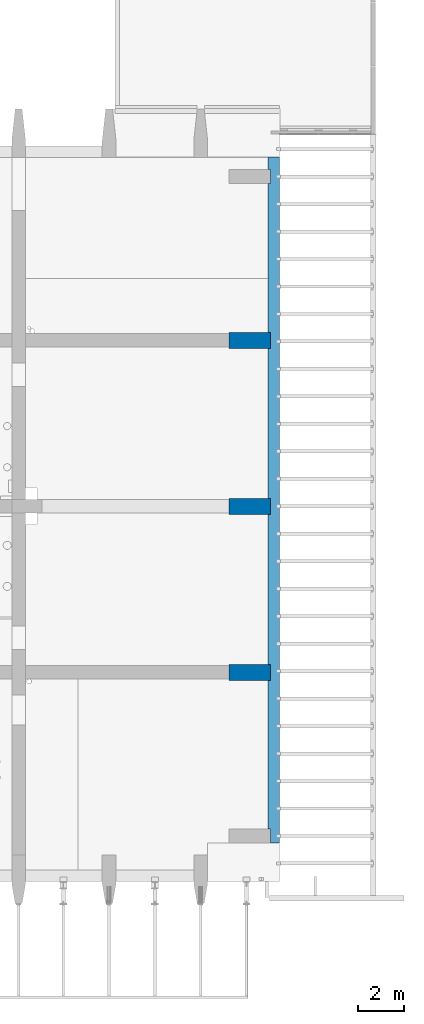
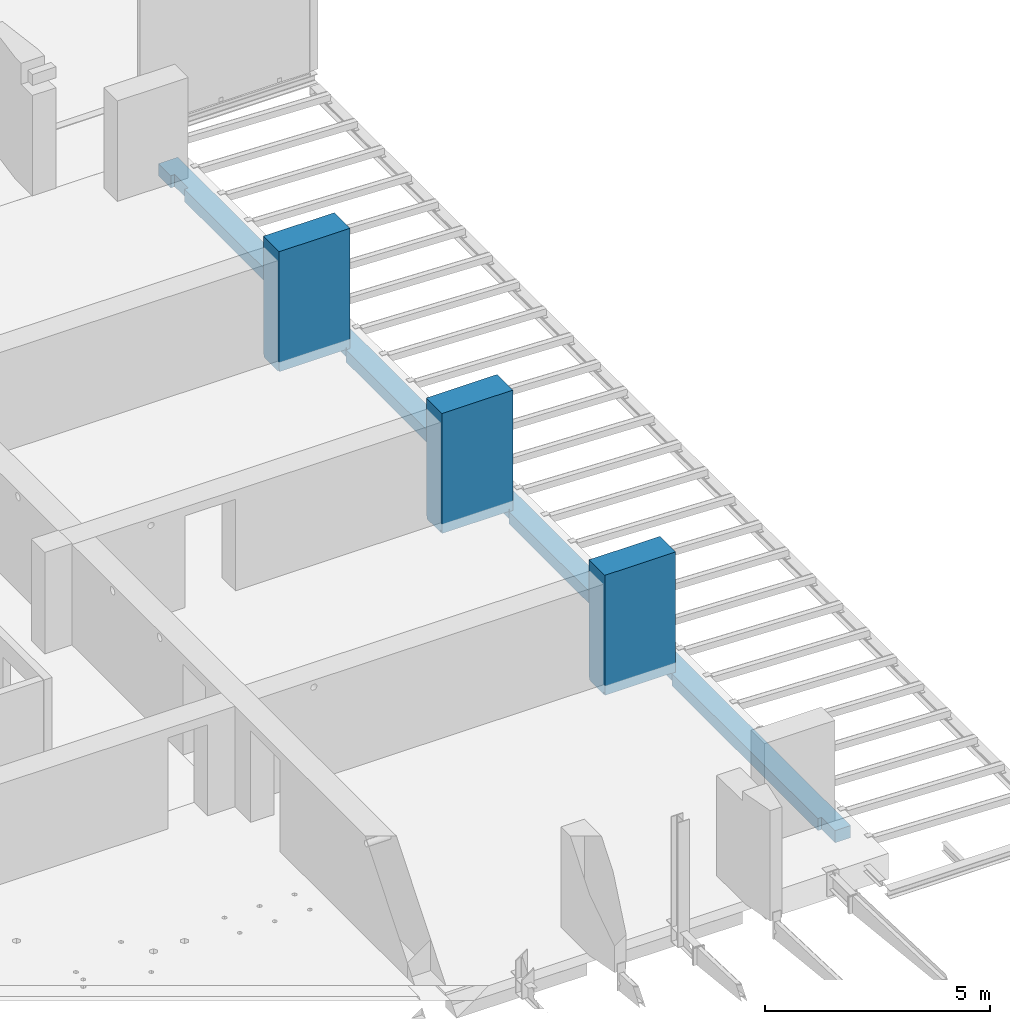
# One storey, part 23 of 27: 3 columns, 1 beam.
"""IFC2X3 building model written with IfcOpenShell, lengths in millimetres."""

from ifc_helpers import new_model, entity, si_unit, converted_unit, derived_unit, direction, frame, origin, place, context, subcontext, project, spatial, faceted_brep, source, transform, mapped, material, type_object, type_shapes, element, save


model = new_model("IFC2X3")

# Units and contexts
model_context = context("Model", 3, precision=0.01, world=origin(), true_north=direction((6.12303176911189e-17, 1.0)))
body_context = subcontext(model_context, "Body", "Model", "MODEL_VIEW")
ifc_project = project(units=[si_unit("LENGTHUNIT", "METRE", prefix="MILLI"), si_unit("AREAUNIT", "SQUARE_METRE"), si_unit("VOLUMEUNIT", "CUBIC_METRE"), converted_unit("PLANEANGLEUNIT", "DEGREE", entity("IfcRatioMeasure", 0.0174532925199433), si_unit("PLANEANGLEUNIT", "RADIAN"), dimensions=[0, 0, 0, 0, 0, 0, 0]), si_unit("MASSUNIT", "GRAM", prefix="KILO"), derived_unit("MASSDENSITYUNIT", [(si_unit("MASSUNIT", "GRAM", prefix="KILO"), 1), (si_unit("LENGTHUNIT", "METRE"), -3)]), si_unit("TIMEUNIT", "SECOND"), si_unit("FREQUENCYUNIT", "HERTZ"), si_unit("THERMODYNAMICTEMPERATUREUNIT", "DEGREE_CELSIUS"), derived_unit("THERMALTRANSMITTANCEUNIT", [(si_unit("MASSUNIT", "GRAM", prefix="KILO"), 1), (si_unit("THERMODYNAMICTEMPERATUREUNIT", "KELVIN"), -1), (si_unit("TIMEUNIT", "SECOND"), -3)]), derived_unit("VOLUMETRICFLOWRATEUNIT", [(si_unit("LENGTHUNIT", "METRE"), 3), (si_unit("TIMEUNIT", "SECOND"), -1)]), si_unit("ELECTRICCURRENTUNIT", "AMPERE"), si_unit("ELECTRICVOLTAGEUNIT", "VOLT"), si_unit("POWERUNIT", "WATT"), si_unit("FORCEUNIT", "NEWTON", prefix="KILO"), si_unit("ILLUMINANCEUNIT", "LUX"), si_unit("LUMINOUSFLUXUNIT", "LUMEN"), si_unit("LUMINOUSINTENSITYUNIT", "CANDELA"), derived_unit("USERDEFINED", [(si_unit("MASSUNIT", "GRAM", prefix="KILO"), -1), (si_unit("LENGTHUNIT", "METRE"), -2), (si_unit("TIMEUNIT", "SECOND"), 3), (si_unit("LUMINOUSFLUXUNIT", "LUMEN"), 1)]), derived_unit("LINEARVELOCITYUNIT", [(si_unit("LENGTHUNIT", "METRE"), 1), (si_unit("TIMEUNIT", "SECOND"), -1)]), si_unit("PRESSUREUNIT", "PASCAL"), derived_unit("USERDEFINED", [(si_unit("LENGTHUNIT", "METRE"), -2), (si_unit("MASSUNIT", "GRAM", prefix="KILO"), 1), (si_unit("TIMEUNIT", "SECOND"), -2)])], contexts=[model_context])

# Site, building, storey
site_placement = place(None, origin())
site = spatial("IfcSite", under=ifc_project, at=site_placement, Name="Default", CompositionType="ELEMENT")
building_placement = place(site_placement, origin())
building = spatial("IfcBuilding", under=site, at=building_placement, Name="niet gebruiken", CompositionType="ELEMENT")
storey_placement = place(building_placement, frame((0.0, 0.0, 6000.0)))
storey = spatial("IfcBuildingStorey", under=building, at=storey_placement, Name="01 eerste verdieping", CompositionType="ELEMENT", Elevation=6000.0)

# Columns
ifc_material = material(Name="NLRS_f2_beton ihwg")
column_type_1 = type_object("IfcColumnType", Name="700x1820", PredefinedType="COLUMN", material=ifc_material)
shared_shape_1 = source(origin(), body_context, "Body", "Brep", [
    faceted_brep([(0.0, 700.0, 3270.0), (0.0, 700.0, 3000.0), (0.0, 700.0, 270.0), (0.0, 700.0, 70.0), (0.0, 640.0, 70.0), (0.0, 640.0, 0.0), (0.0, 60.0, 0.0), (0.0, 60.0, 70.0), (0.0, 0.0, 70.0), (0.0, 0.0, 270.0), (0.0, 0.0, 3000.0), (0.0, 0.0, 3270.0), (0.0, 50.0, 3270.0), (0.0, 650.0, 3270.0), (1820.0, 700.0, 3270.0), (1820.0, 0.0, 3270.0), (1820.0, 0.0, 3000.0), (1820.0, 0.0, 2670.0), (1820.0, 0.0, 270.0), (1820.0, 0.0, 0.0), (1820.0, 700.0, 0.0), (1820.0, 700.0, 270.0), (1820.0, 700.0, 2670.0), (1820.0, 700.0, 3000.0), (1730.0, 0.0, 0.0), (1730.0, 10.0, 0.0), (10.0, 10.0, 0.0), (10.0, 60.0, 0.0), (10.0, 640.0, 0.0), (10.0, 690.0, 0.0), (1730.0, 690.0, 0.0), (1730.0, 700.0, 0.0), (1730.0, 700.0, 70.0), (1730.0, 0.0, 70.0), (10.0, 10.0, 70.0), (1730.0, 10.0, 70.0), (10.0, 60.0, 70.0), (10.0, 640.0, 70.0), (1730.0, 690.0, 70.0), (10.0, 690.0, 70.0)], [[[0, 1, 2, 3, 4, 5, 6, 7, 8, 9, 10, 11, 12, 13]], [[14, 15, 16, 17, 18, 19, 20, 21, 22, 23]], [[11, 15, 14, 0, 13, 12]], [[20, 19, 24, 25, 26, 27, 6, 5, 28, 29, 30, 31]], [[0, 14, 23, 22, 21, 20, 31, 32, 3, 2, 1]], [[15, 11, 10, 9, 8, 33, 24, 19, 18, 17, 16]], [[34, 35, 33, 8, 7, 36]], [[27, 36, 7, 6]], [[37, 28, 5, 4]], [[34, 36, 27, 26]], [[35, 34, 26, 25]], [[35, 25, 24, 33]], [[30, 38, 32, 31]], [[39, 38, 30, 29]], [[37, 39, 29, 28]], [[39, 37, 4, 3, 32, 38]]]),
])
type_shapes(column_type_1, [shared_shape_1])
column_1_placement = place(storey_placement, frame((156980.0, 9900.0, -360.0)))
element("IfcColumn", 1, at=column_1_placement, inside=storey, type_object=column_type_1, material=ifc_material, Name="NLRS_28.11_SCO_TLB_beton kolom ihwg_gen:700x1820", ObjectType="700x1820", context=body_context, shape_type="MappedRepresentation", body=[
    mapped(shared_shape_1, transform((0.0, 0.0, 0.0), scale=1.0)),
])
column_type_2 = type_object("IfcColumnType", Name="700x1820", PredefinedType="COLUMN", material=ifc_material)
shared_shape_2 = source(origin(), body_context, "Body", "Brep", [
    faceted_brep([(0.0, 700.0, 3270.0), (0.0, 700.0, 3000.0), (0.0, 700.0, 270.0), (0.0, 700.0, 70.0), (0.0, 640.0, 70.0), (0.0, 640.0, 0.0), (0.0, 60.0, 0.0), (0.0, 60.0, 70.0), (0.0, 0.0, 70.0), (0.0, 0.0, 270.0), (0.0, 0.0, 3000.0), (0.0, 0.0, 3270.0), (0.0, 50.0, 3270.0), (0.0, 650.0, 3270.0), (1820.0, 700.0, 3270.0), (1820.0, 0.0, 3270.0), (1820.0, 0.0, 3000.0), (1820.0, 0.0, 2670.0), (1820.0, 0.0, 270.0), (1820.0, 0.0, 0.0), (1820.0, 700.0, 0.0), (1820.0, 700.0, 270.0), (1820.0, 700.0, 2670.0), (1820.0, 700.0, 3000.0), (1730.0, 0.0, 0.0), (1730.0, 10.0, 0.0), (10.0, 10.0, 0.0), (10.0, 60.0, 0.0), (10.0, 640.0, 0.0), (10.0, 690.0, 0.0), (1730.0, 690.0, 0.0), (1730.0, 700.0, 0.0), (1730.0, 700.0, 70.0), (1730.0, 0.0, 70.0), (10.0, 10.0, 70.0), (1730.0, 10.0, 70.0), (10.0, 60.0, 70.0), (10.0, 640.0, 70.0), (1730.0, 690.0, 70.0), (10.0, 690.0, 70.0)], [[[0, 1, 2, 3, 4, 5, 6, 7, 8, 9, 10, 11, 12, 13]], [[14, 15, 16, 17, 18, 19, 20, 21, 22, 23]], [[11, 15, 14, 0, 13, 12]], [[20, 19, 24, 25, 26, 27, 6, 5, 28, 29, 30, 31]], [[0, 14, 23, 22, 21, 20, 31, 32, 3, 2, 1]], [[15, 11, 10, 9, 8, 33, 24, 19, 18, 17, 16]], [[34, 35, 33, 8, 7, 36]], [[27, 36, 7, 6]], [[37, 28, 5, 4]], [[34, 36, 27, 26]], [[35, 34, 26, 25]], [[35, 25, 24, 33]], [[30, 38, 32, 31]], [[39, 38, 30, 29]], [[37, 39, 29, 28]], [[39, 37, 4, 3, 32, 38]]]),
])
type_shapes(column_type_2, [shared_shape_2])
column_2_placement = place(storey_placement, frame((156980.0, 17150.0, -360.0)))
element("IfcColumn", 2, at=column_2_placement, inside=storey, type_object=column_type_2, material=ifc_material, Name="NLRS_28.11_SCO_TLB_beton kolom ihwg_gen:700x1820", ObjectType="700x1820", context=body_context, shape_type="MappedRepresentation", body=[
    mapped(shared_shape_2, transform((0.0, 0.0, 0.0), scale=1.0)),
])
column_type_3 = type_object("IfcColumnType", Name="700x1820", PredefinedType="COLUMN", material=ifc_material)
shared_shape_3 = source(origin(), body_context, "Body", "Brep", [
    faceted_brep([(0.0, 700.0, 3270.0), (0.0, 700.0, 3000.0), (0.0, 700.0, 270.0), (0.0, 700.0, 70.0), (0.0, 640.0, 70.0), (0.0, 640.0, 0.0), (0.0, 60.0, 0.0), (0.0, 60.0, 70.0), (0.0, 0.0, 70.0), (0.0, 0.0, 270.0), (0.0, 0.0, 3000.0), (0.0, 0.0, 3270.0), (0.0, 50.0, 3270.0), (0.0, 650.0, 3270.0), (1820.0, 700.0, 3270.0), (1820.0, 0.0, 3270.0), (1820.0, 0.0, 3000.0), (1820.0, 0.0, 2670.0), (1820.0, 0.0, 270.0), (1820.0, 0.0, 0.0), (1820.0, 700.0, 0.0), (1820.0, 700.0, 270.0), (1820.0, 700.0, 2670.0), (1820.0, 700.0, 3000.0), (1730.0, 0.0, 0.0), (1730.0, 10.0, 0.0), (10.0, 10.0, 0.0), (10.0, 60.0, 0.0), (10.0, 640.0, 0.0), (10.0, 690.0, 0.0), (1730.0, 690.0, 0.0), (1730.0, 700.0, 0.0), (1730.0, 700.0, 70.0), (1730.0, 0.0, 70.0), (10.0, 10.0, 70.0), (1730.0, 10.0, 70.0), (10.0, 60.0, 70.0), (10.0, 640.0, 70.0), (1730.0, 690.0, 70.0), (10.0, 690.0, 70.0)], [[[0, 1, 2, 3, 4, 5, 6, 7, 8, 9, 10, 11, 12, 13]], [[14, 15, 16, 17, 18, 19, 20, 21, 22, 23]], [[11, 15, 14, 0, 13, 12]], [[20, 19, 24, 25, 26, 27, 6, 5, 28, 29, 30, 31]], [[0, 14, 23, 22, 21, 20, 31, 32, 3, 2, 1]], [[15, 11, 10, 9, 8, 33, 24, 19, 18, 17, 16]], [[34, 35, 33, 8, 7, 36]], [[37, 28, 5, 4]], [[27, 36, 7, 6]], [[30, 38, 32, 31]], [[39, 38, 30, 29]], [[37, 39, 29, 28]], [[34, 36, 27, 26]], [[35, 34, 26, 25]], [[35, 25, 24, 33]], [[39, 37, 4, 3, 32, 38]]]),
])
type_shapes(column_type_3, [shared_shape_3])
column_3_placement = place(storey_placement, frame((156980.0, 24400.0, -360.0)))
element("IfcColumn", 3, at=column_3_placement, inside=storey, type_object=column_type_3, material=ifc_material, Name="NLRS_28.11_SCO_TLB_beton kolom ihwg_gen:700x1820", ObjectType="700x1820", context=body_context, shape_type="MappedRepresentation", body=[
    mapped(shared_shape_3, transform((0.0, 0.0, 0.0), scale=1.0)),
])

# Beam
beam_type = type_object("IfcBeamType", Name="500x600", PredefinedType="BEAM", material=ifc_material)
beam_placement = place(storey_placement, frame((158700.0, 2800.0, -690.0), z_axis=(0.0, 0.0, 1.0), x_axis=(0.0, -1.0, 0.0)))
element("IfcBeam", 4, at=beam_placement, inside=storey, type_object=beam_type, material=ifc_material, Name="NLRS_28.11_SF_WPB_betonbalk ihwg recht_gen:500x600", ObjectType="NLRS_28.11_SF_WPB_betonbalk ihwg recht_gen:500x600", context=body_context, shape_type="Brep", body=[
    faceted_brep([(-29950.0, 500.0, 330.0), (-29950.0, 500.0, 0.0), (-29950.0, 0.0, 0.0), (-29950.0, 0.0, 330.0), (0.0, 500.0, 0.0), (0.0, 500.0, 330.0), (0.0, 100.0, 330.0), (0.0, 100.0, 0.0), (-600.0, 100.0, 0.0), (-600.0, 0.0, 0.0), (-7100.0, 0.0, 0.0), (-7100.0, 100.0, 0.0), (-7800.0, 100.0, 0.0), (-7800.0, 0.0, 0.0), (-14350.0, 0.0, 0.0), (-14350.0, 100.0, 0.0), (-15050.0, 100.0, 0.0), (-15050.0, 0.0, 0.0), (-21600.0, 0.0, 0.0), (-21600.0, 100.0, 0.0), (-22300.0, 100.0, 0.0), (-22300.0, 0.0, 0.0), (-28800.0, 0.0, 0.0), (-28800.0, 100.0, 0.0), (-29400.0, 100.0, 0.0), (-29400.0, 0.0, 0.0), (-29400.0, 0.0, 330.0), (-29400.0, 100.0, 330.0), (-28800.0, 100.0, 330.0), (-28800.0, 0.0, 330.0), (-22300.0, 0.0, 330.0), (-22300.0, 10.0, 330.0), (-22300.0, 100.0, 330.0), (-21600.0, 100.0, 330.0), (-21600.0, 10.0, 330.0), (-21600.0, 0.0, 330.0), (-15050.0, 0.0, 330.0), (-15050.0, 10.0, 330.0), (-15050.0, 100.0, 330.0), (-14350.0, 100.0, 330.0), (-14350.0, 10.0, 330.0), (-14350.0, 0.0, 330.0), (-7800.0, 0.0, 330.0), (-7800.0, 10.0, 330.0), (-7800.0, 100.0, 330.0), (-7100.0, 100.0, 330.0), (-7100.0, 10.0, 330.0), (-7100.0, 0.0, 330.0), (-600.0, 0.0, 330.0), (-600.0, 100.0, 330.0)], [[[0, 1, 2, 3]], [[4, 5, 6, 7]], [[1, 0, 5, 4]], [[2, 1, 4, 7, 8, 9, 10, 11, 12, 13, 14, 15, 16, 17, 18, 19, 20, 21, 22, 23, 24, 25]], [[3, 2, 25, 26]], [[0, 3, 26, 27, 28, 29, 30, 31, 32, 33, 34, 35, 36, 37, 38, 39, 40, 41, 42, 43, 44, 45, 46, 47, 48, 49, 6, 5]], [[11, 45, 44, 12]], [[45, 11, 10, 47, 46]], [[49, 8, 7, 6]], [[8, 49, 48, 9]], [[12, 44, 43, 42, 13]], [[47, 10, 9, 48]], [[19, 33, 32, 20]], [[20, 32, 31, 30, 21]], [[33, 19, 18, 35, 34]], [[35, 18, 17, 36]], [[23, 28, 27, 24]], [[24, 27, 26, 25]], [[28, 23, 22, 29]], [[21, 30, 29, 22]], [[15, 39, 38, 16]], [[16, 38, 37, 36, 17]], [[39, 15, 14, 41, 40]], [[13, 42, 41, 14]]]),
])

save(model, "model.ifc")
